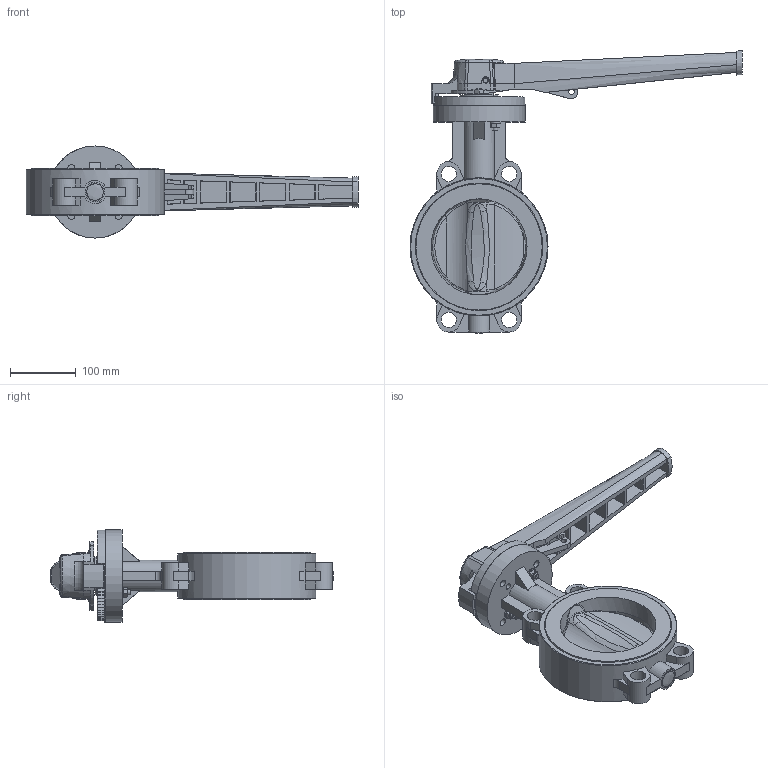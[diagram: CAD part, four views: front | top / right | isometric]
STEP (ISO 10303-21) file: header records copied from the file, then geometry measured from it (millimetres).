
FILE_DESCRIPTION(/* description */ ('Corpo d.160 vers. ACQUA','CAx-IF Rec.Pracs.---Representation and Presentation of Product Manufacturing Information (PMI)---3.8---2014-02-18'),/* implementation_level */ '2;1');
FILE_NAME(/* name */ 'C:\Users\POLYPIPE\Desktop\DATASET INVENTOR\LIBRERIA EFFAST\3D_VALVOLE\3D_VALVOLE A FARFALLA PRO FLOW\FDRPFH\3D_FDRPFH1600.stp',/* time_stamp */ '2018-04-20T16:40:00+02:00',/* author */ ('POLYPIPE'),/* organization */ ('Polypipe Italia s.r.l.'),/* preprocessor_version */ 'ST-DEVELOPER v16.1',/* originating_system */ 'Autodesk Inventor 2016',/* authorisation */ '');
FILE_SCHEMA (('AP242_MANAGED_MODEL_BASED_3D_ENGINEERING_MIM_LF { 1 0 10303 442 1 1 4 }'));
Length unit declared in the file: millimetre
Products named in the file (13): 3D_FDRFCO1600 (10); 3D_FDRGCO160x (1_1); 3D_FDRDHF1600 (3_1); 3D_FDRFRP1600 (7_0); 3D_FDRFSH1600 (9_0); 3D_FDRFHB1600 (9_1); FDRCAP1600 - BOZZA; ISO 4017 - M8 x 45 - ISO; ISO 7089 - 8 - 140 HV(1); ISO 4032 - M8 - ISO; ISO 2338 - 8 h8 x 70; 3D_FDRAST160x (8_0); 3D_Pro Flow 160
Assembly tree (15 placements, depth 2):
  3D_Pro Flow 160
    3D_FDRFCO1600 (10)
    3D_FDRGCO160x (1_1)
    3D_FDRDHF1600 (3_1)
    3D_FDRFRP1600 (7_0)
    3D_FDRFSH1600 (9_0)
    3D_FDRFHB1600 (9_1)
    FDRCAP1600 - BOZZA
    ISO 4017 - M8 x 45 - ISO  x2
    ISO 7089 - 8 - 140 HV(1)  x2
    ISO 4032 - M8 - ISO  x2
    ISO 2338 - 8 h8 x 70
    3D_FDRAST160x (8_0)
Bounding box: 505 x 429.4 x 140 mm (x, y, z)
Volume: 3323873.8 mm3; surface area: 615988 mm2
Topology: 15 solids, 15 shells, 785 faces, 2214 edges, 1488 vertices
Faces by surface type: plane 332, bspline 269, cylinder 136, cone 39, torus 7, sphere 2
Full cylindrical faces by diameter (mm): 6.647 x2, 8 x3, 8.1 x3, 8.4 x2, 8.5 x1, 9 x6, 11 x4, 11.63 x2, 12.5 x1, 15 x1, 15.8 x1, 16 x2, 17.5 x1, 22.4 x1, 23.25 x4, 24 x1, 24.5 x1, 25 x2, 25.1 x1, 30 x1, 42.5 x1, 44.7 x2, 45.1 x1, 140 x2, 154.5 x1, 158 x1, 181 x2, 192 x2, 194 x2, 210 x1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
Entity records: 31043 total; most frequent: CARTESIAN_POINT 13637, ORIENTED_EDGE 4104, DIRECTION 2547, EDGE_CURVE 2052, VERTEX_POINT 1418, EDGE_LOOP 896, AXIS2_PLACEMENT_3D 872, B_SPLINE_CURVE_WITH_KNOTS 855
